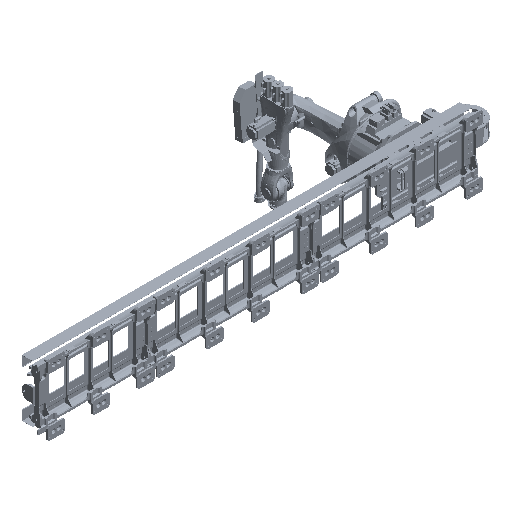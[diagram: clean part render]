
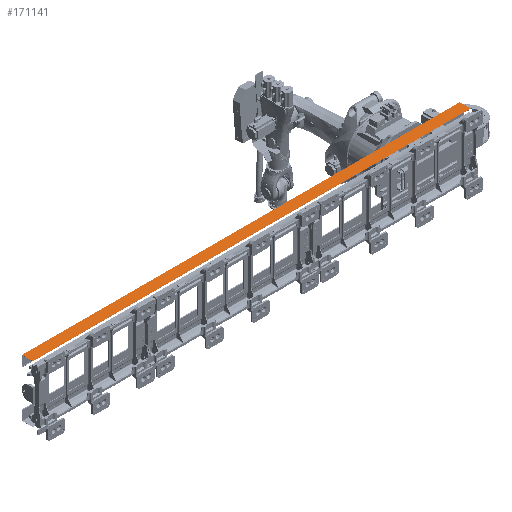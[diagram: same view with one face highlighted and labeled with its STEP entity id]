
A CAD part, isometric view. The second image highlights one B-rep face of the part: STEP entity #171141.
In plain terms, the highlighted planar face has unit normal (0, 0, 1).
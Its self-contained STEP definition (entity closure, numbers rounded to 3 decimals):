
#171114=AXIS2_PLACEMENT_3D('Plane Axis2P3D',#171111,#171112,#171113) ;
#171088=CARTESIAN_POINT('Vertex',(-11040.,-3388.543,-1763.346)) ;
#171091=CARTESIAN_POINT('Line Origine',(-7040.,-3388.543,-1763.346)) ;
#171095=CARTESIAN_POINT('Vertex',(-3040.,-3388.543,-1763.346)) ;
#171111=CARTESIAN_POINT('Axis2P3D Location',(-3040.,-3586.543,-1763.346)) ;
#171116=CARTESIAN_POINT('Line Origine',(-11040.,-3487.543,-1763.346)) ;
#171120=CARTESIAN_POINT('Vertex',(-11040.,-3586.543,-1763.346)) ;
#171123=CARTESIAN_POINT('Line Origine',(-7040.,-3586.543,-1763.346)) ;
#171127=CARTESIAN_POINT('Vertex',(-3040.,-3586.543,-1763.346)) ;
#171130=CARTESIAN_POINT('Line Origine',(-3040.,-3487.543,-1763.346)) ;
#171092=DIRECTION('Vector Direction',(-1.,0.,0.)) ;
#171112=DIRECTION('Axis2P3D Direction',(0.,0.,1.)) ;
#171113=DIRECTION('Axis2P3D XDirection',(0.,1.,0.)) ;
#171117=DIRECTION('Vector Direction',(0.,1.,0.)) ;
#171124=DIRECTION('Vector Direction',(-1.,0.,0.)) ;
#171131=DIRECTION('Vector Direction',(0.,1.,0.)) ;
#171093=VECTOR('Line Direction',#171092,1.) ;
#171118=VECTOR('Line Direction',#171117,1.) ;
#171125=VECTOR('Line Direction',#171124,1.) ;
#171132=VECTOR('Line Direction',#171131,1.) ;
#171136=ORIENTED_EDGE('',*,*,#171122,.T.) ;
#171137=ORIENTED_EDGE('',*,*,#171129,.F.) ;
#171138=ORIENTED_EDGE('',*,*,#171134,.F.) ;
#171139=ORIENTED_EDGE('',*,*,#171097,.T.) ;
#171141=ADVANCED_FACE('\X2\96F64EF651E04F554F53\X0\',(#171140),#171115,.T.) ;
#171097=EDGE_CURVE('',#171096,#171089,#171094,.T.) ;
#171122=EDGE_CURVE('',#171089,#171121,#171119,.F.) ;
#171129=EDGE_CURVE('',#171128,#171121,#171126,.T.) ;
#171134=EDGE_CURVE('',#171096,#171128,#171133,.F.) ;
#171135=EDGE_LOOP('',(#171136,#171137,#171138,#171139)) ;
#171140=FACE_OUTER_BOUND('',#171135,.T.) ;
#171094=LINE('Line',#171091,#171093) ;
#171119=LINE('Line',#171116,#171118) ;
#171126=LINE('Line',#171123,#171125) ;
#171133=LINE('Line',#171130,#171132) ;
#171115=PLANE('',#171114) ;
#171089=VERTEX_POINT('',#171088) ;
#171096=VERTEX_POINT('',#171095) ;
#171121=VERTEX_POINT('',#171120) ;
#171128=VERTEX_POINT('',#171127) ;
